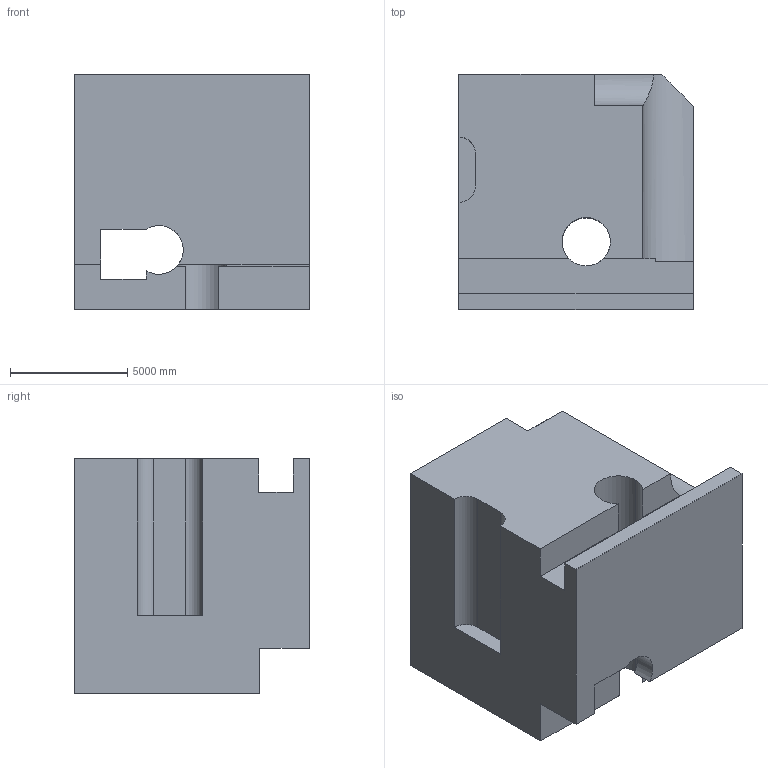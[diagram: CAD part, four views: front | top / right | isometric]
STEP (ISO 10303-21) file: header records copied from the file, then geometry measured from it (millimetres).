
FILE_DESCRIPTION (( 'STEP AP203' ), '1' );
FILE_NAME ('903.STEP', '2022-07-29T14:09:24', ( 'user' ), ( '' ), 'SwSTEP 2.0', 'SolidWorks 2021', '' );
FILE_SCHEMA (( 'CONFIG_CONTROL_DESIGN' ));
Length unit declared in the file: centimetre
Products named in the file (1): 903
Bounding box: 10000 x 10000 x 10000 mm (x, y, z)
Volume: 781294261159.4 mm3; surface area: 730421020.8 mm2
Topology: 1 solids, 1 shells, 41 faces, 126 edges, 84 vertices
Faces by surface type: plane 30, cylinder 11
Entity records: 1731 total; most frequent: CARTESIAN_POINT 497, ORIENTED_EDGE 252, DIRECTION 236, EDGE_CURVE 126, VECTOR 92, LINE 92, VERTEX_POINT 84, AXIS2_PLACEMENT_3D 72
